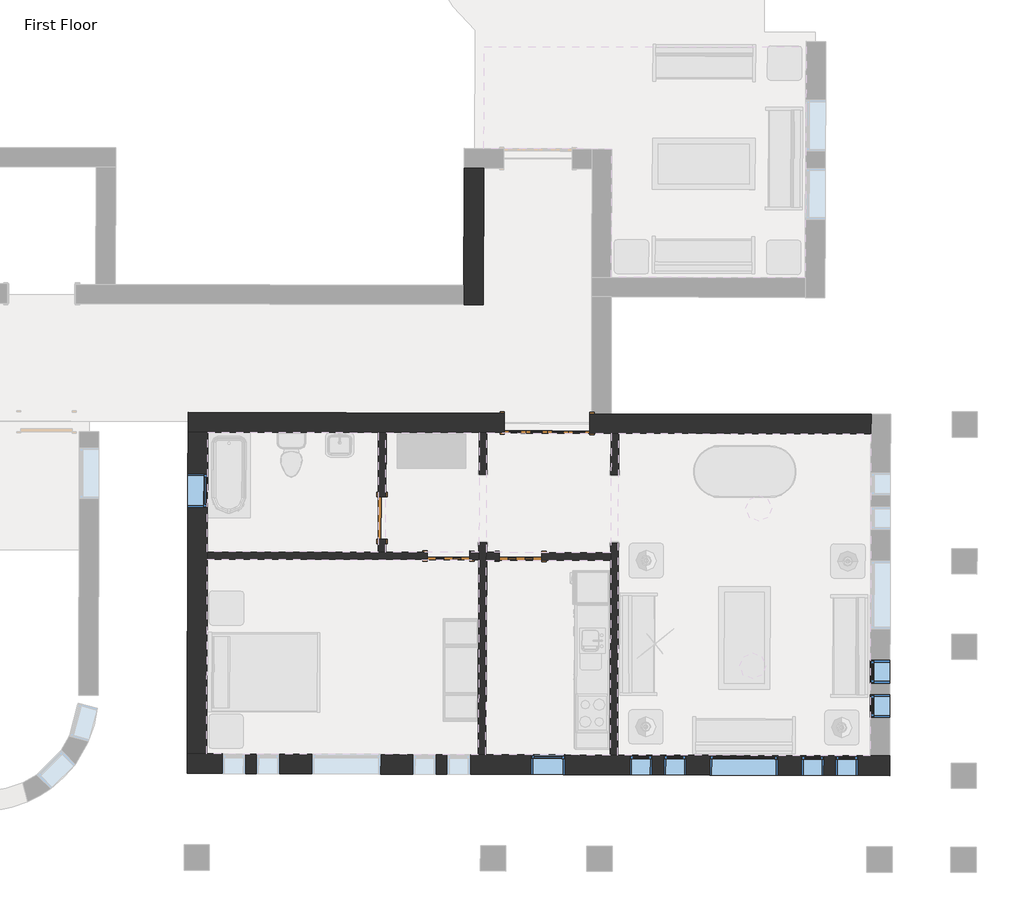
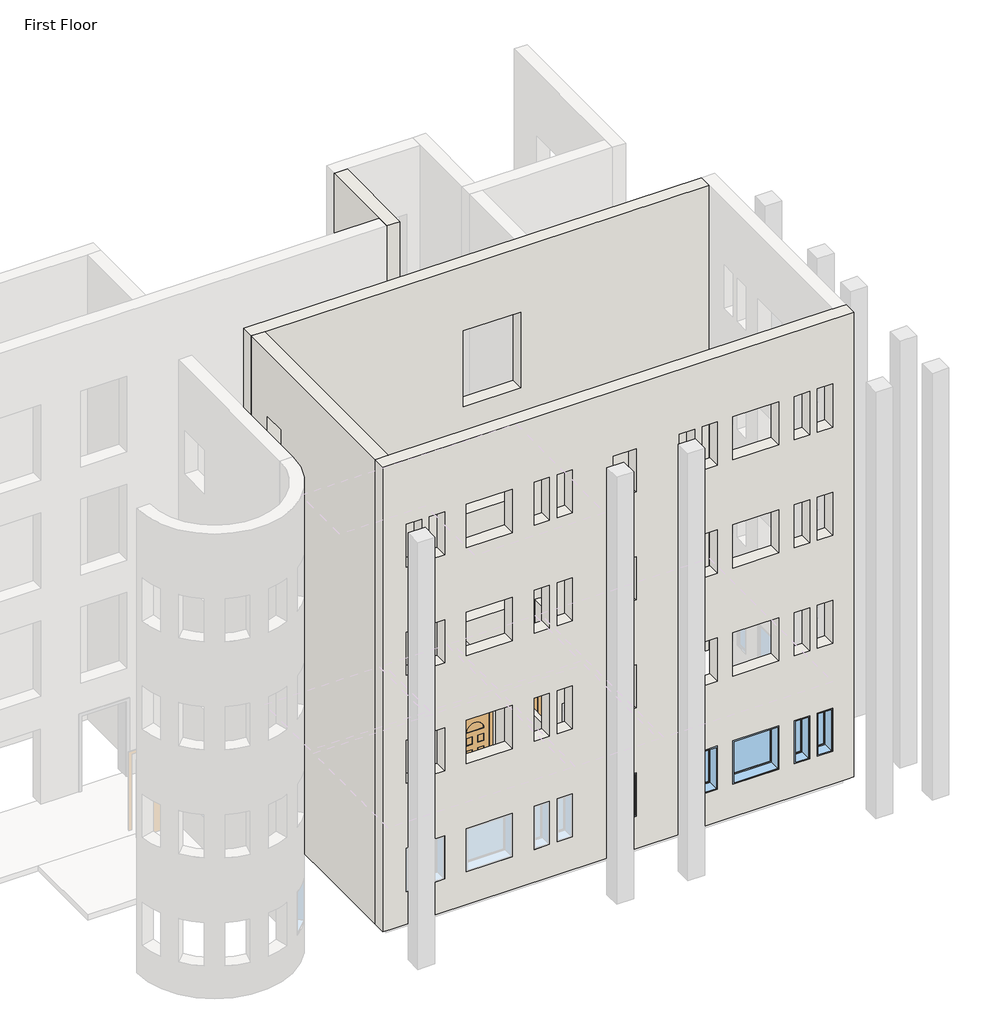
# One storey, part 4 of 22: 9 windows, 8 walls, 4 doors.
"""IFC4 building model written with IfcOpenShell, lengths in millimetres."""

from ifc_helpers import new_model, si_unit, frame, origin, place, context, project, spatial, polyline, outline, extrude, faceted_brep, transform, mapped, element, save
from components import m_bifold_4_panel_1525_x_2134mm_ac598c8b, m_single_decorative_2_0762_x_2134mm_0d0af7cb, m_single_decorative_2_0762_x_2134mm_2fe67c8e, m_single_flush_0762_x_2134mm_a28375c7, m_fixed_0406_x_1220mm_57fee329, m_fixed_0406_x_1220mm_85c28f40, m_fixed_0610_x_1220mm_1ea27827, m_fixed_1220_x_1220mm_8f5f8ad3

model = new_model("IFC4")

# Units and contexts
model_context = context("Model", 3, world=origin())
ifc_project = project(units=[si_unit("LENGTHUNIT", "METRE", prefix="MILLI")], contexts=[model_context])

# Site, building, storey
site = spatial("IfcSite", under=ifc_project)
building = spatial("IfcBuilding", under=site)
storey = spatial("IfcBuildingStorey", under=building, Name="First Floor", Elevation=0.0)

# Doors
placement = place(None, origin())
m_bifold_4_panel_1525_x_2134mm_shape = m_bifold_4_panel_1525_x_2134mm_ac598c8b(model_context)
element("IfcDoor", 1, ObjectType="M_Bifold-4 Panel : 1525 x 2134mm", at=placement, inside=storey, context=model_context, shape_type="MappedRepresentation", body=[
    mapped(m_bifold_4_panel_1525_x_2134mm_shape, transform((-8922.9440871, -35884.2994497, 0.0), x_axis=(0.9999958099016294, -0.0028948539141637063, 0.0), y_axis=(0.0028948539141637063, 0.9999958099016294, 0.0), z_axis=(0.0, 0.0, 1.0))),
])
m_single_decorative_2_0762_x_2134mm_shape = m_single_decorative_2_0762_x_2134mm_0d0af7cb(model_context)
element("IfcDoor", 2, ObjectType="M_Single-Decorative 2 : 0762 x 2134mm", at=placement, inside=storey, context=model_context, shape_type="MappedRepresentation", body=[
    mapped(m_single_decorative_2_0762_x_2134mm_shape, transform((-10682.8170859, -38255.9648119, 0.0), x_axis=(0.9999958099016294, -0.002894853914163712, 0.0), y_axis=(0.002894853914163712, 0.9999958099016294, 0.0), z_axis=(0.0, 0.0, 1.0))),
])
m_single_decorative_2_0762_x_2134mm_2_shape = m_single_decorative_2_0762_x_2134mm_2fe67c8e(model_context)
element("IfcDoor", 3, ObjectType="M_Single-Decorative 2 : 0762 x 2134mm", at=placement, inside=storey, context=model_context, shape_type="MappedRepresentation", body=[
    mapped(m_single_decorative_2_0762_x_2134mm_2_shape, transform((-9396.0724775, -38259.6897652, 0.0), x_axis=(-0.9999958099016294, 0.002894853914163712, 0.0), y_axis=(-0.002894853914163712, -0.9999958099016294, 0.0), z_axis=(0.0, 0.0, 1.0))),
])
m_single_flush_0762_x_2134mm_shape = m_single_flush_0762_x_2134mm_a28375c7(model_context)
element("IfcDoor", 4, ObjectType="M_Single-Flush : 0762 x 2134mm", at=placement, inside=storey, context=model_context, shape_type="MappedRepresentation", body=[
    mapped(m_single_flush_0762_x_2134mm_shape, transform((-11871.3501103, -37574.7713282, 0.0), x_axis=(-0.002894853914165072, -0.9999958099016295, 0.0), y_axis=(0.9999958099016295, -0.002894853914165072, 0.0), z_axis=(0.0, 0.0, 1.0))),
])

# Walls
element("IfcWall", 5, ObjectType="Exterior - Brick on Mtl. Stud", at=placement, inside=storey, context=model_context, shape_type="Brep", body=[
    faceted_brep([(-15350.3208606, -42136.7193311, 0.0), (-15165.3216358, -42137.2548791, 0.0), (-2993.3726377, -42172.4910409, 0.0), (-2808.3734128, -42173.0265889, 0.0), (-2808.3734128, -42173.0265889, 13107.0), (-15350.3208606, -42136.7193311, 13107.0), (-8602.199136, -42156.2542395, 915.0), (-9212.1965801, -42154.4883787, 915.0), (-9212.1965801, -42154.4883787, 2135.0), (-8602.199136, -42156.2542395, 2135.0), (-11898.3353248, -42146.7123668, 915.0), (-13118.3302129, -42143.180645, 915.0), (-13118.3302129, -42143.180645, 2135.0), (-11898.3353248, -42146.7123668, 2135.0), (-4800.4900656, -42167.259678, 915.0), (-6020.4849537, -42163.7279563, 915.0), (-6020.4849537, -42163.7279563, 2135.0), (-4800.4900656, -42167.259678, 2135.0), (-14312.3252099, -42139.7241895, 915.0), (-14718.3235087, -42138.5488788, 915.0), (-14718.3235087, -42138.5488788, 2135.0), (-14312.3252099, -42139.7241895, 2135.0), (-13702.3277659, -42141.4900504, 915.0), (-14108.3260647, -42140.3147397, 915.0), (-14108.3260647, -42140.3147397, 2135.0), (-13702.3277659, -42141.4900504, 2135.0), (-11314.3377718, -42148.4029615, 915.0), (-11314.3377718, -42148.4029615, 2135.0), (-10908.339473, -42149.5782722, 2135.0), (-10908.339473, -42149.5782722, 915.0), (-10704.3403278, -42150.1688224, 915.0), (-10704.3403278, -42150.1688224, 2135.0), (-10298.342029, -42151.3441331, 2135.0), (-10298.342029, -42151.3441331, 915.0), (-6435.3582153, -42162.5269538, 915.0), (-6841.3565142, -42161.3516431, 915.0), (-6841.3565142, -42161.3516431, 2135.0), (-6435.3582153, -42162.5269538, 2135.0), (-7045.3556594, -42160.7610929, 915.0), (-7451.3539582, -42159.5857822, 915.0), (-7451.3539582, -42159.5857822, 2135.0), (-7045.3556594, -42160.7610929, 2135.0), (-4385.616804, -42168.4606806, 915.0), (-4385.616804, -42168.4606806, 2135.0), (-3979.6185052, -42169.6359913, 2135.0), (-3979.6185052, -42169.6359913, 915.0), (-3775.6193599, -42170.2265415, 915.0), (-3775.6193599, -42170.2265415, 2135.0), (-3369.6210611, -42171.4018521, 2135.0), (-3369.6210611, -42171.4018521, 915.0), (-4385.616804, -42168.4606806, 10059.0), (-4385.616804, -42168.4606806, 11279.0), (-3979.6185052, -42169.6359913, 11279.0), (-3979.6185052, -42169.6359913, 10059.0), (-3775.6193599, -42170.2265415, 10059.0), (-3775.6193599, -42170.2265415, 11279.0), (-3369.6210611, -42171.4018521, 11279.0), (-3369.6210611, -42171.4018521, 10059.0), (-6435.3582153, -42162.5269538, 10059.0), (-6841.3565142, -42161.3516431, 10059.0), (-6841.3565142, -42161.3516431, 11279.0), (-6435.3582153, -42162.5269538, 11279.0), (-7045.3556594, -42160.7610929, 10059.0), (-7451.3539582, -42159.5857822, 10059.0), (-7451.3539582, -42159.5857822, 11279.0), (-7045.3556594, -42160.7610929, 11279.0), (-11314.3377718, -42148.4029615, 10059.0), (-11314.3377718, -42148.4029615, 11279.0), (-10908.339473, -42149.5782722, 11279.0), (-10908.339473, -42149.5782722, 10059.0), (-10704.3403278, -42150.1688224, 10059.0), (-10704.3403278, -42150.1688224, 11279.0), (-10298.342029, -42151.3441331, 11279.0), (-10298.342029, -42151.3441331, 10059.0), (-13702.3277659, -42141.4900504, 10059.0), (-14108.3260647, -42140.3147397, 10059.0), (-14108.3260647, -42140.3147397, 11279.0), (-13702.3277659, -42141.4900504, 11279.0), (-14312.3252099, -42139.7241895, 10059.0), (-14718.3235087, -42138.5488788, 10059.0), (-14718.3235087, -42138.5488788, 11279.0), (-14312.3252099, -42139.7241895, 11279.0), (-4800.4900656, -42167.259678, 10059.0), (-6020.4849537, -42163.7279563, 10059.0), (-6020.4849537, -42163.7279563, 11279.0), (-4800.4900656, -42167.259678, 11279.0), (-11898.3353248, -42146.7123668, 10059.0), (-13118.3302129, -42143.180645, 10059.0), (-13118.3302129, -42143.180645, 11279.0), (-11898.3353248, -42146.7123668, 11279.0), (-8602.199136, -42156.2542395, 10059.0), (-9212.1965801, -42154.4883787, 10059.0), (-9212.1965801, -42154.4883787, 11279.0), (-8602.199136, -42156.2542395, 11279.0), (-4385.616804, -42168.4606806, 3963.0), (-4385.616804, -42168.4606806, 5183.0), (-3979.6185052, -42169.6359913, 5183.0), (-3979.6185052, -42169.6359913, 3963.0), (-3775.6193599, -42170.2265415, 3963.0), (-3775.6193599, -42170.2265415, 5183.0), (-3369.6210611, -42171.4018521, 5183.0), (-3369.6210611, -42171.4018521, 3963.0), (-6435.3582153, -42162.5269538, 3963.0), (-6841.3565142, -42161.3516431, 3963.0), (-6841.3565142, -42161.3516431, 5183.0), (-6435.3582153, -42162.5269538, 5183.0), (-7045.3556594, -42160.7610929, 3963.0), (-7451.3539582, -42159.5857822, 3963.0), (-7451.3539582, -42159.5857822, 5183.0), (-7045.3556594, -42160.7610929, 5183.0), (-11314.3377718, -42148.4029615, 3963.0), (-11314.3377718, -42148.4029615, 5183.0), (-10908.339473, -42149.5782722, 5183.0), (-10908.339473, -42149.5782722, 3963.0), (-10704.3403278, -42150.1688224, 3963.0), (-10704.3403278, -42150.1688224, 5183.0), (-10298.342029, -42151.3441331, 5183.0), (-10298.342029, -42151.3441331, 3963.0), (-13702.3277659, -42141.4900504, 3963.0), (-14108.3260647, -42140.3147397, 3963.0), (-14108.3260647, -42140.3147397, 5183.0), (-13702.3277659, -42141.4900504, 5183.0), (-14312.3252099, -42139.7241895, 3963.0), (-14718.3235087, -42138.5488788, 3963.0), (-14718.3235087, -42138.5488788, 5183.0), (-14312.3252099, -42139.7241895, 5183.0), (-4800.4900656, -42167.259678, 3963.0), (-6020.4849537, -42163.7279563, 3963.0), (-6020.4849537, -42163.7279563, 5183.0), (-4800.4900656, -42167.259678, 5183.0), (-11898.3353248, -42146.7123668, 3963.0), (-13118.3302129, -42143.180645, 3963.0), (-13118.3302129, -42143.180645, 5183.0), (-11898.3353248, -42146.7123668, 5183.0), (-8602.199136, -42156.2542395, 3963.0), (-9212.1965801, -42154.4883787, 3963.0), (-9212.1965801, -42154.4883787, 5183.0), (-8602.199136, -42156.2542395, 5183.0), (-4385.616804, -42168.4606806, 7011.0), (-4385.616804, -42168.4606806, 8231.0), (-3979.6185052, -42169.6359913, 8231.0), (-3979.6185052, -42169.6359913, 7011.0), (-3775.6193599, -42170.2265415, 7011.0), (-3775.6193599, -42170.2265415, 8231.0), (-3369.6210611, -42171.4018521, 8231.0), (-3369.6210611, -42171.4018521, 7011.0), (-6435.3582153, -42162.5269538, 7011.0), (-6841.3565142, -42161.3516431, 7011.0), (-6841.3565142, -42161.3516431, 8231.0), (-6435.3582153, -42162.5269538, 8231.0), (-7045.3556594, -42160.7610929, 7011.0), (-7451.3539582, -42159.5857822, 7011.0), (-7451.3539582, -42159.5857822, 8231.0), (-7045.3556594, -42160.7610929, 8231.0), (-11314.3377718, -42148.4029615, 7011.0), (-11314.3377718, -42148.4029615, 8231.0), (-10908.339473, -42149.5782722, 8231.0), (-10908.339473, -42149.5782722, 7011.0), (-10704.3403278, -42150.1688224, 7011.0), (-10704.3403278, -42150.1688224, 8231.0), (-10298.342029, -42151.3441331, 8231.0), (-10298.342029, -42151.3441331, 7011.0), (-13702.3277659, -42141.4900504, 7011.0), (-14108.3260647, -42140.3147397, 7011.0), (-14108.3260647, -42140.3147397, 8231.0), (-13702.3277659, -42141.4900504, 8231.0), (-14312.3252099, -42139.7241895, 7011.0), (-14718.3235087, -42138.5488788, 7011.0), (-14718.3235087, -42138.5488788, 8231.0), (-14312.3252099, -42139.7241895, 8231.0), (-4800.4900656, -42167.259678, 7011.0), (-6020.4849537, -42163.7279563, 7011.0), (-6020.4849537, -42163.7279563, 8231.0), (-4800.4900656, -42167.259678, 8231.0), (-11898.3353248, -42146.7123668, 7011.0), (-13118.3302129, -42143.180645, 7011.0), (-13118.3302129, -42143.180645, 8231.0), (-11898.3353248, -42146.7123668, 8231.0), (-8602.199136, -42156.2542395, 7011.0), (-9212.1965801, -42154.4883787, 7011.0), (-9212.1965801, -42154.4883787, 8231.0), (-8602.199136, -42156.2542395, 8231.0), (-15349.3076617, -41786.7207976, 0.0), (-15349.3076617, -41786.7207976, 13107.0), (-14999.3091283, -41787.7339965, 13107.0), (-3157.3587474, -41822.0148566, 13107.0), (-2807.360214, -41823.0280554, 13107.0), (-2807.360214, -41823.0280554, 0.0), (-2992.3594388, -41822.4925075, 0.0), (-3157.3587474, -41822.0148566, 0.0), (-7661.5898742, -41808.9757108, 0.0), (-7797.0893064, -41808.5834581, 0.0), (-10015.3300117, -41802.1619484, 0.0), (-10150.829444, -41801.7696957, 0.0), (-14999.3091283, -41787.7339965, 0.0), (-15164.3084369, -41787.2563456, 0.0), (-8601.1859371, -41806.2557061, 915.0), (-8601.1859371, -41806.2557061, 2135.0), (-9211.1833812, -41804.4898452, 2135.0), (-9211.1833812, -41804.4898452, 915.0), (-11897.322126, -41796.7138334, 915.0), (-11897.322126, -41796.7138334, 2135.0), (-13117.317014, -41793.1821116, 2135.0), (-13117.317014, -41793.1821116, 915.0), (-4799.4768668, -41817.2611446, 915.0), (-4799.4768668, -41817.2611446, 2135.0), (-6019.4717548, -41813.7294228, 2135.0), (-6019.4717548, -41813.7294228, 915.0), (-14311.3120111, -41789.725656, 915.0), (-14311.3120111, -41789.725656, 2135.0), (-14717.3103099, -41788.5503453, 2135.0), (-14717.3103099, -41788.5503453, 915.0), (-13701.314567, -41791.4915169, 915.0), (-13701.314567, -41791.4915169, 2135.0), (-14107.3128658, -41790.3162062, 2135.0), (-14107.3128658, -41790.3162062, 915.0), (-11313.324573, -41798.404428, 915.0), (-10907.3262742, -41799.5797387, 915.0), (-10907.3262742, -41799.5797387, 2135.0), (-11313.324573, -41798.404428, 2135.0), (-10703.3271289, -41800.1702889, 915.0), (-10297.3288301, -41801.3455996, 915.0), (-10297.3288301, -41801.3455996, 2135.0), (-10703.3271289, -41800.1702889, 2135.0), (-6434.3450165, -41812.5284203, 915.0), (-6434.3450165, -41812.5284203, 2135.0), (-6840.3433153, -41811.3531096, 2135.0), (-6840.3433153, -41811.3531096, 915.0), (-7044.3424605, -41810.7625594, 915.0), (-7044.3424605, -41810.7625594, 2135.0), (-7450.3407593, -41809.5872487, 2135.0), (-7450.3407593, -41809.5872487, 915.0), (-4384.6036051, -41818.4621471, 915.0), (-3978.6053063, -41819.6374578, 915.0), (-3978.6053063, -41819.6374578, 2135.0), (-4384.6036051, -41818.4621471, 2135.0), (-3774.6061611, -41820.228008, 915.0), (-3368.6078623, -41821.4033187, 915.0), (-3368.6078623, -41821.4033187, 2135.0), (-3774.6061611, -41820.228008, 2135.0), (-4384.6036051, -41818.4621471, 10059.0), (-3978.6053063, -41819.6374578, 10059.0), (-3978.6053063, -41819.6374578, 11279.0), (-4384.6036051, -41818.4621471, 11279.0), (-3774.6061611, -41820.228008, 10059.0), (-3368.6078623, -41821.4033187, 10059.0), (-3368.6078623, -41821.4033187, 11279.0), (-3774.6061611, -41820.228008, 11279.0), (-6434.3450165, -41812.5284203, 10059.0), (-6434.3450165, -41812.5284203, 11279.0), (-6840.3433153, -41811.3531096, 11279.0), (-6840.3433153, -41811.3531096, 10059.0), (-7044.3424605, -41810.7625594, 10059.0), (-7044.3424605, -41810.7625594, 11279.0), (-7450.3407593, -41809.5872487, 11279.0), (-7450.3407593, -41809.5872487, 10059.0), (-11313.324573, -41798.404428, 10059.0), (-10907.3262742, -41799.5797387, 10059.0), (-10907.3262742, -41799.5797387, 11279.0), (-11313.324573, -41798.404428, 11279.0), (-10703.3271289, -41800.1702889, 10059.0), (-10297.3288301, -41801.3455996, 10059.0), (-10297.3288301, -41801.3455996, 11279.0), (-10703.3271289, -41800.1702889, 11279.0), (-13701.314567, -41791.4915169, 10059.0), (-13701.314567, -41791.4915169, 11279.0), (-14107.3128658, -41790.3162062, 11279.0), (-14107.3128658, -41790.3162062, 10059.0), (-14311.3120111, -41789.725656, 10059.0), (-14311.3120111, -41789.725656, 11279.0), (-14717.3103099, -41788.5503453, 11279.0), (-14717.3103099, -41788.5503453, 10059.0), (-4799.4768668, -41817.2611446, 10059.0), (-4799.4768668, -41817.2611446, 11279.0), (-6019.4717548, -41813.7294228, 11279.0), (-6019.4717548, -41813.7294228, 10059.0), (-11897.322126, -41796.7138334, 10059.0), (-11897.322126, -41796.7138334, 11279.0), (-13117.317014, -41793.1821116, 11279.0), (-13117.317014, -41793.1821116, 10059.0), (-8601.1859371, -41806.2557061, 10059.0), (-8601.1859371, -41806.2557061, 11279.0), (-9211.1833812, -41804.4898452, 11279.0), (-9211.1833812, -41804.4898452, 10059.0), (-4384.6036051, -41818.4621471, 3963.0), (-3978.6053063, -41819.6374578, 3963.0), (-3978.6053063, -41819.6374578, 5183.0), (-4384.6036051, -41818.4621471, 5183.0), (-3774.6061611, -41820.228008, 3963.0), (-3368.6078623, -41821.4033187, 3963.0), (-3368.6078623, -41821.4033187, 5183.0), (-3774.6061611, -41820.228008, 5183.0), (-6434.3450165, -41812.5284203, 3963.0), (-6434.3450165, -41812.5284203, 5183.0), (-6840.3433153, -41811.3531096, 5183.0), (-6840.3433153, -41811.3531096, 3963.0), (-7044.3424605, -41810.7625594, 3963.0), (-7044.3424605, -41810.7625594, 5183.0), (-7450.3407593, -41809.5872487, 5183.0), (-7450.3407593, -41809.5872487, 3963.0), (-11313.324573, -41798.404428, 3963.0), (-10907.3262742, -41799.5797387, 3963.0), (-10907.3262742, -41799.5797387, 5183.0), (-11313.324573, -41798.404428, 5183.0), (-10703.3271289, -41800.1702889, 3963.0), (-10297.3288301, -41801.3455996, 3963.0), (-10297.3288301, -41801.3455996, 5183.0), (-10703.3271289, -41800.1702889, 5183.0), (-13701.314567, -41791.4915169, 3963.0), (-13701.314567, -41791.4915169, 5183.0), (-14107.3128658, -41790.3162062, 5183.0), (-14107.3128658, -41790.3162062, 3963.0), (-14311.3120111, -41789.725656, 3963.0), (-14311.3120111, -41789.725656, 5183.0), (-14717.3103099, -41788.5503453, 5183.0), (-14717.3103099, -41788.5503453, 3963.0), (-4799.4768668, -41817.2611446, 3963.0), (-4799.4768668, -41817.2611446, 5183.0), (-6019.4717548, -41813.7294228, 5183.0), (-6019.4717548, -41813.7294228, 3963.0), (-11897.322126, -41796.7138334, 3963.0), (-11897.322126, -41796.7138334, 5183.0), (-13117.317014, -41793.1821116, 5183.0), (-13117.317014, -41793.1821116, 3963.0), (-8601.1859371, -41806.2557061, 3963.0), (-8601.1859371, -41806.2557061, 5183.0), (-9211.1833812, -41804.4898452, 5183.0), (-9211.1833812, -41804.4898452, 3963.0), (-4384.6036051, -41818.4621471, 7011.0), (-3978.6053063, -41819.6374578, 7011.0), (-3978.6053063, -41819.6374578, 8231.0), (-4384.6036051, -41818.4621471, 8231.0), (-3774.6061611, -41820.228008, 7011.0), (-3368.6078623, -41821.4033187, 7011.0), (-3368.6078623, -41821.4033187, 8231.0), (-3774.6061611, -41820.228008, 8231.0), (-6434.3450165, -41812.5284203, 7011.0), (-6434.3450165, -41812.5284203, 8231.0), (-6840.3433153, -41811.3531096, 8231.0), (-6840.3433153, -41811.3531096, 7011.0), (-7044.3424605, -41810.7625594, 7011.0), (-7044.3424605, -41810.7625594, 8231.0), (-7450.3407593, -41809.5872487, 8231.0), (-7450.3407593, -41809.5872487, 7011.0), (-11313.324573, -41798.404428, 7011.0), (-10907.3262742, -41799.5797387, 7011.0), (-10907.3262742, -41799.5797387, 8231.0), (-11313.324573, -41798.404428, 8231.0), (-10703.3271289, -41800.1702889, 7011.0), (-10297.3288301, -41801.3455996, 7011.0), (-10297.3288301, -41801.3455996, 8231.0), (-10703.3271289, -41800.1702889, 8231.0), (-13701.314567, -41791.4915169, 7011.0), (-13701.314567, -41791.4915169, 8231.0), (-14107.3128658, -41790.3162062, 8231.0), (-14107.3128658, -41790.3162062, 7011.0), (-14311.3120111, -41789.725656, 7011.0), (-14311.3120111, -41789.725656, 8231.0), (-14717.3103099, -41788.5503453, 8231.0), (-14717.3103099, -41788.5503453, 7011.0), (-4799.4768668, -41817.2611446, 7011.0), (-4799.4768668, -41817.2611446, 8231.0), (-6019.4717548, -41813.7294228, 8231.0), (-6019.4717548, -41813.7294228, 7011.0), (-11897.322126, -41796.7138334, 7011.0), (-11897.322126, -41796.7138334, 8231.0), (-13117.317014, -41793.1821116, 8231.0), (-13117.317014, -41793.1821116, 7011.0), (-8601.1859371, -41806.2557061, 7011.0), (-8601.1859371, -41806.2557061, 8231.0), (-9211.1833812, -41804.4898452, 8231.0), (-9211.1833812, -41804.4898452, 7011.0), (-15349.7853126, -41951.7201063, 0.0), (-2807.8378648, -41988.0273641, 0.0), (-2992.8370897, -41987.4918161, 0.0), (-15164.7860878, -41952.2556543, 0.0)], [[[0, 1, 2, 3, 4, 5], [6, 7, 8, 9], [10, 11, 12, 13], [14, 15, 16, 17], [18, 19, 20, 21], [22, 23, 24, 25], [26, 27, 28, 29], [30, 31, 32, 33], [34, 35, 36, 37], [38, 39, 40, 41], [42, 43, 44, 45], [46, 47, 48, 49], [50, 51, 52, 53], [54, 55, 56, 57], [58, 59, 60, 61], [62, 63, 64, 65], [66, 67, 68, 69], [70, 71, 72, 73], [74, 75, 76, 77], [78, 79, 80, 81], [82, 83, 84, 85], [86, 87, 88, 89], [90, 91, 92, 93], [94, 95, 96, 97], [98, 99, 100, 101], [102, 103, 104, 105], [106, 107, 108, 109], [110, 111, 112, 113], [114, 115, 116, 117], [118, 119, 120, 121], [122, 123, 124, 125], [126, 127, 128, 129], [130, 131, 132, 133], [134, 135, 136, 137], [138, 139, 140, 141], [142, 143, 144, 145], [146, 147, 148, 149], [150, 151, 152, 153], [154, 155, 156, 157], [158, 159, 160, 161], [162, 163, 164, 165], [166, 167, 168, 169], [170, 171, 172, 173], [174, 175, 176, 177], [178, 179, 180, 181]], [[182, 183, 184, 185, 186, 187, 188, 189, 190, 191, 192, 193, 194, 195], [196, 197, 198, 199], [200, 201, 202, 203], [204, 205, 206, 207], [208, 209, 210, 211], [212, 213, 214, 215], [216, 217, 218, 219], [220, 221, 222, 223], [224, 225, 226, 227], [228, 229, 230, 231], [232, 233, 234, 235], [236, 237, 238, 239], [240, 241, 242, 243], [244, 245, 246, 247], [248, 249, 250, 251], [252, 253, 254, 255], [256, 257, 258, 259], [260, 261, 262, 263], [264, 265, 266, 267], [268, 269, 270, 271], [272, 273, 274, 275], [276, 277, 278, 279], [280, 281, 282, 283], [284, 285, 286, 287], [288, 289, 290, 291], [292, 293, 294, 295], [296, 297, 298, 299], [300, 301, 302, 303], [304, 305, 306, 307], [308, 309, 310, 311], [312, 313, 314, 315], [316, 317, 318, 319], [320, 321, 322, 323], [324, 325, 326, 327], [328, 329, 330, 331], [332, 333, 334, 335], [336, 337, 338, 339], [340, 341, 342, 343], [344, 345, 346, 347], [348, 349, 350, 351], [352, 353, 354, 355], [356, 357, 358, 359], [360, 361, 362, 363], [364, 365, 366, 367], [368, 369, 370, 371]], [[5, 4, 186, 185, 184, 183]], [[197, 196, 6, 9]], [[198, 197, 9, 8]], [[199, 198, 8, 7]], [[196, 199, 7, 6]], [[201, 200, 10, 13]], [[202, 201, 13, 12]], [[203, 202, 12, 11]], [[200, 203, 11, 10]], [[205, 204, 14, 17]], [[206, 205, 17, 16]], [[207, 206, 16, 15]], [[204, 207, 15, 14]], [[209, 208, 18, 21]], [[210, 209, 21, 20]], [[211, 210, 20, 19]], [[208, 211, 19, 18]], [[213, 212, 22, 25]], [[214, 213, 25, 24]], [[215, 214, 24, 23]], [[212, 215, 23, 22]], [[27, 26, 216, 219]], [[28, 27, 219, 218]], [[29, 28, 218, 217]], [[26, 29, 217, 216]], [[31, 30, 220, 223]], [[32, 31, 223, 222]], [[33, 32, 222, 221]], [[30, 33, 221, 220]], [[225, 224, 34, 37]], [[226, 225, 37, 36]], [[227, 226, 36, 35]], [[224, 227, 35, 34]], [[229, 228, 38, 41]], [[230, 229, 41, 40]], [[231, 230, 40, 39]], [[228, 231, 39, 38]], [[43, 42, 232, 235]], [[44, 43, 235, 234]], [[45, 44, 234, 233]], [[42, 45, 233, 232]], [[47, 46, 236, 239]], [[48, 47, 239, 238]], [[49, 48, 238, 237]], [[46, 49, 237, 236]], [[51, 50, 240, 243]], [[52, 51, 243, 242]], [[53, 52, 242, 241]], [[50, 53, 241, 240]], [[55, 54, 244, 247]], [[56, 55, 247, 246]], [[57, 56, 246, 245]], [[54, 57, 245, 244]], [[249, 248, 58, 61]], [[250, 249, 61, 60]], [[251, 250, 60, 59]], [[248, 251, 59, 58]], [[253, 252, 62, 65]], [[254, 253, 65, 64]], [[255, 254, 64, 63]], [[252, 255, 63, 62]], [[67, 66, 256, 259]], [[68, 67, 259, 258]], [[69, 68, 258, 257]], [[66, 69, 257, 256]], [[71, 70, 260, 263]], [[72, 71, 263, 262]], [[73, 72, 262, 261]], [[70, 73, 261, 260]], [[265, 264, 74, 77]], [[266, 265, 77, 76]], [[267, 266, 76, 75]], [[264, 267, 75, 74]], [[269, 268, 78, 81]], [[270, 269, 81, 80]], [[271, 270, 80, 79]], [[268, 271, 79, 78]], [[273, 272, 82, 85]], [[274, 273, 85, 84]], [[275, 274, 84, 83]], [[272, 275, 83, 82]], [[277, 276, 86, 89]], [[278, 277, 89, 88]], [[279, 278, 88, 87]], [[276, 279, 87, 86]], [[281, 280, 90, 93]], [[282, 281, 93, 92]], [[283, 282, 92, 91]], [[280, 283, 91, 90]], [[95, 94, 284, 287]], [[96, 95, 287, 286]], [[97, 96, 286, 285]], [[94, 97, 285, 284]], [[99, 98, 288, 291]], [[100, 99, 291, 290]], [[101, 100, 290, 289]], [[98, 101, 289, 288]], [[293, 292, 102, 105]], [[294, 293, 105, 104]], [[295, 294, 104, 103]], [[292, 295, 103, 102]], [[297, 296, 106, 109]], [[298, 297, 109, 108]], [[299, 298, 108, 107]], [[296, 299, 107, 106]], [[111, 110, 300, 303]], [[112, 111, 303, 302]], [[113, 112, 302, 301]], [[110, 113, 301, 300]], [[115, 114, 304, 307]], [[116, 115, 307, 306]], [[117, 116, 306, 305]], [[114, 117, 305, 304]], [[309, 308, 118, 121]], [[310, 309, 121, 120]], [[311, 310, 120, 119]], [[308, 311, 119, 118]], [[313, 312, 122, 125]], [[314, 313, 125, 124]], [[315, 314, 124, 123]], [[312, 315, 123, 122]], [[317, 316, 126, 129]], [[318, 317, 129, 128]], [[319, 318, 128, 127]], [[316, 319, 127, 126]], [[321, 320, 130, 133]], [[322, 321, 133, 132]], [[323, 322, 132, 131]], [[320, 323, 131, 130]], [[325, 324, 134, 137]], [[326, 325, 137, 136]], [[327, 326, 136, 135]], [[324, 327, 135, 134]], [[139, 138, 328, 331]], [[140, 139, 331, 330]], [[141, 140, 330, 329]], [[138, 141, 329, 328]], [[143, 142, 332, 335]], [[144, 143, 335, 334]], [[145, 144, 334, 333]], [[142, 145, 333, 332]], [[337, 336, 146, 149]], [[338, 337, 149, 148]], [[339, 338, 148, 147]], [[336, 339, 147, 146]], [[341, 340, 150, 153]], [[342, 341, 153, 152]], [[343, 342, 152, 151]], [[340, 343, 151, 150]], [[155, 154, 344, 347]], [[156, 155, 347, 346]], [[157, 156, 346, 345]], [[154, 157, 345, 344]], [[159, 158, 348, 351]], [[160, 159, 351, 350]], [[161, 160, 350, 349]], [[158, 161, 349, 348]], [[353, 352, 162, 165]], [[354, 353, 165, 164]], [[355, 354, 164, 163]], [[352, 355, 163, 162]], [[357, 356, 166, 169]], [[358, 357, 169, 168]], [[359, 358, 168, 167]], [[356, 359, 167, 166]], [[361, 360, 170, 173]], [[362, 361, 173, 172]], [[363, 362, 172, 171]], [[360, 363, 171, 170]], [[365, 364, 174, 177]], [[366, 365, 177, 176]], [[367, 366, 176, 175]], [[364, 367, 175, 174]], [[369, 368, 178, 181]], [[370, 369, 181, 180]], [[371, 370, 180, 179]], [[368, 371, 179, 178]], [[0, 5, 183, 182, 372]], [[4, 3, 373, 187, 186]], [[374, 188, 187, 373]], [[3, 2, 374, 373]], [[2, 1, 375, 374]], [[372, 182, 195, 375]], [[1, 0, 372, 375]], [[375, 195, 194, 193, 192, 191, 190, 189, 188, 374]]]),
])
element("IfcWall", 6, ObjectType="Exterior - Brick on Mtl. Stud", at=placement, inside=storey, context=model_context, shape_type="Brep", body=[
    faceted_brep([(-15331.6606323, -35690.7463405, 13107.0), (-3139.711718, -35726.0403994, 13107.0), (-3139.711718, -35726.0403994, 0.0), (-8159.9406826, -35711.507509, 0.0), (-8159.9406826, -35711.507509, 2134.0), (-9684.9342927, -35707.0928568, 2134.0), (-9684.9342927, -35707.0928568, 0.0), (-15331.6606323, -35690.7463405, 0.0), (-8159.9406826, -35711.507509, 9144.0), (-8159.9406826, -35711.507509, 11278.0), (-9684.9342927, -35707.0928568, 11278.0), (-9684.9342927, -35707.0928568, 9144.0), (-8159.9406826, -35711.507509, 3048.0), (-8159.9406826, -35711.507509, 5182.0), (-9684.9342927, -35707.0928568, 5182.0), (-9684.9342927, -35707.0928568, 3048.0), (-8159.9406826, -35711.507509, 6096.0), (-8159.9406826, -35711.507509, 8230.0), (-9684.9342927, -35707.0928568, 8230.0), (-9684.9342927, -35707.0928568, 6096.0), (-3140.7249168, -36076.0389329, 13107.0), (-14982.6752977, -36041.7580728, 13107.0), (-15332.6738311, -36040.7448739, 13107.0), (-15332.6738311, -36040.7448739, 0.0), (-14982.6752977, -36041.7580728, 0.0), (-11934.6880691, -36050.5815875, 0.0), (-11799.1886369, -36050.9738403, 0.0), (-10134.1956134, -36055.793772, 0.0), (-9998.6961811, -36056.1860247, 0.0), (-9685.9474916, -36057.0913903, 0.0), (-9685.9474916, -36057.0913903, 2134.0), (-8160.9538815, -36061.5060425, 2134.0), (-8160.9538815, -36061.5060425, 0.0), (-7780.4554758, -36062.6075344, 0.0), (-7644.9560436, -36062.9997871, 0.0), (-3140.7249168, -36076.0389329, 0.0), (-8160.9538815, -36061.5060425, 9144.0), (-9685.9474916, -36057.0913903, 9144.0), (-9685.9474916, -36057.0913903, 11278.0), (-8160.9538815, -36061.5060425, 11278.0), (-8160.9538815, -36061.5060425, 3048.0), (-9685.9474916, -36057.0913903, 3048.0), (-9685.9474916, -36057.0913903, 5182.0), (-8160.9538815, -36061.5060425, 5182.0), (-8160.9538815, -36061.5060425, 6096.0), (-9685.9474916, -36057.0913903, 6096.0), (-9685.9474916, -36057.0913903, 8230.0), (-8160.9538815, -36061.5060425, 8230.0)], [[[0, 1, 2, 3, 4, 5, 6, 7], [8, 9, 10, 11], [12, 13, 14, 15], [16, 17, 18, 19]], [[20, 21, 22, 23, 24, 25, 26, 27, 28, 29, 30, 31, 32, 33, 34, 35], [36, 37, 38, 39], [40, 41, 42, 43], [44, 45, 46, 47]], [[23, 7, 6, 29, 28, 27, 26, 25, 24]], [[2, 35, 34, 33, 32, 3]], [[1, 0, 22, 21, 20]], [[31, 4, 3, 32]], [[4, 31, 30, 5]], [[5, 30, 29, 6]], [[9, 8, 36, 39]], [[10, 9, 39, 38]], [[11, 10, 38, 37]], [[8, 11, 37, 36]], [[13, 12, 40, 43]], [[14, 13, 43, 42]], [[15, 14, 42, 41]], [[12, 15, 41, 40]], [[17, 16, 44, 47]], [[18, 17, 47, 46]], [[19, 18, 46, 45]], [[16, 19, 45, 44]], [[0, 7, 23, 22]], [[2, 1, 20, 35]]]),
])
element("IfcWall", 7, ObjectType="Exterior - Brick on Mtl. Stud", at=placement, inside=storey, context=model_context, shape_type="Brep", body=[
    faceted_brep([(-15332.6738311, -36040.7448739, 0.0), (-15349.3076617, -41786.7207976, 0.0), (-15349.3076617, -41786.7207976, 13107.0), (-15332.6738311, -36040.7448739, 13107.0), (-15336.5818839, -37390.7392173, 915.0), (-15334.816023, -36780.7417733, 915.0), (-15334.816023, -36780.7417733, 2135.0), (-15336.5818839, -37390.7392173, 2135.0), (-15336.5818839, -37390.7392173, 10059.0), (-15334.816023, -36780.7417733, 10059.0), (-15334.816023, -36780.7417733, 11279.0), (-15336.5818839, -37390.7392173, 11279.0), (-15336.5818839, -37390.7392173, 3963.0), (-15334.816023, -36780.7417733, 3963.0), (-15334.816023, -36780.7417733, 5183.0), (-15336.5818839, -37390.7392173, 5183.0), (-15336.5818839, -37390.7392173, 7011.0), (-15334.816023, -36780.7417733, 7011.0), (-15334.816023, -36780.7417733, 8231.0), (-15336.5818839, -37390.7392173, 8231.0), (-14982.6752977, -36041.7580728, 0.0), (-14982.6752977, -36041.7580728, 13107.0), (-14999.3091283, -41787.7339965, 13107.0), (-14999.3091283, -41787.7339965, 0.0), (-14989.2451686, -38311.2485634, 0.0), (-14988.8529159, -38175.7491311, 0.0), (-14986.5833505, -37391.7524162, 915.0), (-14986.5833505, -37391.7524162, 2135.0), (-14984.8174896, -36781.7549721, 2135.0), (-14984.8174896, -36781.7549721, 915.0), (-14986.5833505, -37391.7524162, 10059.0), (-14986.5833505, -37391.7524162, 11279.0), (-14984.8174896, -36781.7549721, 11279.0), (-14984.8174896, -36781.7549721, 10059.0), (-14986.5833505, -37391.7524162, 3963.0), (-14986.5833505, -37391.7524162, 5183.0), (-14984.8174896, -36781.7549721, 5183.0), (-14984.8174896, -36781.7549721, 3963.0), (-14986.5833505, -37391.7524162, 7011.0), (-14986.5833505, -37391.7524162, 8231.0), (-14984.8174896, -36781.7549721, 8231.0), (-14984.8174896, -36781.7549721, 7011.0), (-15147.6746063, -36041.2804219, 0.0), (-15164.3084369, -41787.2563456, 0.0)], [[[0, 1, 2, 3], [4, 5, 6, 7], [8, 9, 10, 11], [12, 13, 14, 15], [16, 17, 18, 19]], [[20, 21, 22, 23, 24, 25], [26, 27, 28, 29], [30, 31, 32, 33], [34, 35, 36, 37], [38, 39, 40, 41]], [[3, 2, 22, 21]], [[27, 26, 4, 7]], [[28, 27, 7, 6]], [[29, 28, 6, 5]], [[26, 29, 5, 4]], [[31, 30, 8, 11]], [[32, 31, 11, 10]], [[33, 32, 10, 9]], [[30, 33, 9, 8]], [[35, 34, 12, 15]], [[36, 35, 15, 14]], [[37, 36, 14, 13]], [[34, 37, 13, 12]], [[39, 38, 16, 19]], [[40, 39, 19, 18]], [[41, 40, 18, 17]], [[38, 41, 17, 16]], [[0, 3, 21, 20, 42]], [[2, 1, 43, 23, 22]], [[1, 0, 42, 43]], [[42, 20, 25, 24, 23, 43]]]),
])
element("IfcWall", 8, ObjectType="Exterior - Brick on Mtl. Stud", at=placement, inside=storey, context=model_context, shape_type="Brep", body=[
    faceted_brep([(-10402.7584043, -31327.2876841, 0.0), (-10408.8135958, -33418.9877446, 0.0), (-10409.8267947, -33768.9862781, 0.0), (-10409.8267947, -33768.9862781, 13107.0), (-10408.8135958, -33418.9877446, 13107.0), (-10402.7584043, -31327.2876841, 13107.0), (-10052.7613374, -31328.8074814, 0.0), (-10052.7613374, -31328.8074814, 13107.0), (-10059.8282612, -33769.9994769, 13107.0), (-10059.8282612, -33769.9994769, 0.0)], [[[0, 1, 2, 3, 4, 5]], [[6, 7, 8, 9]], [[2, 1, 0, 6, 9]], [[5, 4, 3, 8, 7]], [[3, 2, 9, 8]], [[0, 5, 7, 6]]]),
])
element("IfcWall", 9, ObjectType="Interior - 135mm Partition (2-hr)", at=placement, inside=storey, context=model_context, shape_type="Brep", body=[
    faceted_brep([(-7661.5898742, -41808.9757108, 0.0), (-7650.6270624, -38021.9915787, 0.0), (-7650.6270624, -38021.9915787, 2134.0), (-7647.0953406, -36801.9966906, 2134.0), (-7647.0953406, -36801.9966906, 0.0), (-7644.9560436, -36062.9997871, 0.0), (-7644.9560436, -36062.9997871, 3048.0), (-7661.5898742, -41808.9757108, 3048.0), (-7786.1264946, -38021.599326, 2134.0), (-7786.1264946, -38021.599326, 0.0), (-7786.6330941, -38196.5985928, 0.0), (-7787.0253468, -38332.098025, 0.0), (-7797.0893064, -41808.5834581, 0.0), (-7797.0893064, -41808.5834581, 3048.0), (-7787.0253468, -38332.098025, 3048.0), (-7786.6330941, -38196.5985928, 3048.0), (-7780.4554758, -36062.6075344, 3048.0), (-7780.4554758, -36062.6075344, 0.0), (-7782.5947729, -36801.6044379, 0.0), (-7782.5947729, -36801.6044379, 2134.0)], [[[0, 1, 2, 3, 4, 5, 6, 7]], [[8, 9, 10, 11, 12, 13, 14, 15, 16, 17, 18, 19]], [[18, 17, 5, 4]], [[12, 11, 10, 9, 1, 0]], [[7, 6, 16, 15, 14, 13]], [[4, 3, 19, 18]], [[2, 1, 9, 8]], [[3, 2, 8, 19]], [[6, 5, 17, 16]], [[0, 7, 13, 12]]]),
])
element("IfcWall", 10, ObjectType="Interior - 135mm Partition (2-hr)", at=placement, inside=storey, context=model_context, shape_type="Brep", body=[
    faceted_brep([(-10000.8354782, -36795.1829282, 2134.0), (-10000.8354782, -36795.1829282, 0.0), (-9998.6961811, -36056.1860247, 0.0), (-9998.6961811, -36056.1860247, 3048.0), (-10004.8737994, -38190.1770831, 3048.0), (-10005.2660521, -38325.6765153, 3048.0), (-10015.3300117, -41802.1619484, 3048.0), (-10015.3300117, -41802.1619484, 0.0), (-10005.2660521, -38325.6765153, 0.0), (-10004.8737994, -38190.1770831, 0.0), (-10004.3671999, -38015.1778163, 0.0), (-10004.3671999, -38015.1778163, 2134.0), (-10134.1956134, -36055.793772, 0.0), (-10136.3349104, -36794.7906755, 0.0), (-10136.3349104, -36794.7906755, 2134.0), (-10139.8666322, -38014.7855636, 2134.0), (-10139.8666322, -38014.7855636, 0.0), (-10140.3732316, -38189.7848304, 0.0), (-10140.7654843, -38325.2842626, 0.0), (-10150.829444, -41801.7696957, 0.0), (-10150.829444, -41801.7696957, 3048.0), (-10140.7654843, -38325.2842626, 3048.0), (-10140.3732316, -38189.7848304, 3048.0), (-10134.1956134, -36055.793772, 3048.0)], [[[0, 1, 2, 3, 4, 5, 6, 7, 8, 9, 10, 11]], [[12, 13, 14, 15, 16, 17, 18, 19, 20, 21, 22, 23]], [[2, 1, 13, 12]], [[10, 9, 8, 7, 19, 18, 17, 16]], [[6, 5, 4, 3, 23, 22, 21, 20]], [[16, 15, 11, 10]], [[14, 13, 1, 0]], [[15, 14, 0, 11]], [[3, 2, 12, 23]], [[7, 6, 20, 19]]]),
])
element("IfcWall", 11, ObjectType="Interior - 135mm Partition (2-hr)", at=placement, inside=storey, context=model_context, shape_type="Brep", body=[
    faceted_brep([(-9777.2670074, -38326.336542, 0.0), (-9777.2670074, -38326.336542, 2134.0), (-9015.2702003, -38328.5424207, 2134.0), (-9015.2702003, -38328.5424207, 0.0), (-7787.0253468, -38332.098025, 0.0), (-7787.0253468, -38332.098025, 3048.0), (-10005.2660521, -38325.6765153, 3048.0), (-10005.2660521, -38325.6765153, 0.0), (-9776.8747547, -38190.8371097, 2134.0), (-9776.8747547, -38190.8371097, 0.0), (-10004.8737994, -38190.1770831, 0.0), (-10004.8737994, -38190.1770831, 3048.0), (-7786.6330941, -38196.5985928, 3048.0), (-7786.6330941, -38196.5985928, 0.0), (-9014.8779476, -38193.0429884, 0.0), (-9014.8779476, -38193.0429884, 2134.0)], [[[0, 1, 2, 3, 4, 5, 6, 7]], [[8, 9, 10, 11, 12, 13, 14, 15]], [[9, 0, 7, 10]], [[3, 14, 13, 4]], [[5, 12, 11, 6]], [[1, 0, 9, 8]], [[2, 1, 8, 15]], [[3, 2, 15, 14]], [[5, 4, 13, 12]], [[7, 6, 11, 10]]]),
    faceted_brep([(-10302.0148087, -38324.8174674, 2134.0), (-10302.0148087, -38324.8174674, 0.0), (-10140.7654843, -38325.2842626, 0.0), (-10140.7654843, -38325.2842626, 3048.0), (-14989.2451686, -38311.2485634, 3048.0), (-14989.2451686, -38311.2485634, 0.0), (-11064.0116158, -38322.6115887, 0.0), (-11064.0116158, -38322.6115887, 2134.0), (-10301.622556, -38189.3180352, 0.0), (-10301.622556, -38189.3180352, 2134.0), (-11063.6193631, -38187.1121565, 2134.0), (-11063.6193631, -38187.1121565, 0.0), (-11805.3662551, -38184.9648986, 0.0), (-11940.8656874, -38184.5726459, 0.0), (-14988.8529159, -38175.7491311, 0.0), (-14988.8529159, -38175.7491311, 3048.0), (-11940.8656874, -38184.5726459, 3048.0), (-11805.3662551, -38184.9648986, 3048.0), (-10140.3732316, -38189.7848304, 3048.0), (-10140.3732316, -38189.7848304, 0.0)], [[[0, 1, 2, 3, 4, 5, 6, 7]], [[8, 9, 10, 11, 12, 13, 14, 15, 16, 17, 18, 19]], [[1, 8, 19, 2]], [[11, 6, 5, 14, 13, 12]], [[15, 4, 3, 18, 17, 16]], [[9, 8, 1, 0]], [[10, 9, 0, 7]], [[11, 10, 7, 6]], [[5, 4, 15, 14]], [[3, 2, 19, 18]]]),
])
element("IfcWall", 12, ObjectType="Interior - 135mm Partition (2-hr)", at=placement, inside=storey, context=model_context, shape_type="SweptSolid", body=[
    extrude(outline(polyline([(-2309.0, 0.0), (-2080.0, 0.0), (-2080.0, -2134.0), (-1318.0, -2134.0), (-1318.0, 0.0), (-175.0000001, 0.0), (-175.0000001, -3048.0), (-2309.0, -3048.0), (-2309.0, 0.0)])), frame((-11798.6820374, -35875.9745735, 0.0), z_axis=(-0.9999958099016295, 0.002894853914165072, 0.0), x_axis=(0.002894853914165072, 0.9999958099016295, 0.0)), (0.0, 0.0, 1.0), 135.5),
])

# Windows
m_fixed_0406_x_1220mm_shape = m_fixed_0406_x_1220mm_57fee329(model_context)
element("IfcWindow", 13, ObjectType="M_Fixed : 0406 x 1220mm", at=placement, inside=storey, context=model_context, shape_type="MappedRepresentation", body=[
    mapped(m_fixed_0406_x_1220mm_shape, transform((-3572.1512442, -42008.8148756, 0.0), x_axis=(0.9999958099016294, -0.002894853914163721, 0.0), y_axis=(0.002894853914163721, 0.9999958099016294, 0.0), z_axis=(0.0, 0.0, 1.0))),
])
element("IfcWindow", 14, ObjectType="M_Fixed : 0406 x 1220mm", at=placement, inside=storey, context=model_context, shape_type="MappedRepresentation", body=[
    mapped(m_fixed_0406_x_1220mm_shape, transform((-4182.1486882, -42007.0490147, 0.0), x_axis=(0.9999958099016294, -0.002894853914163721, 0.0), y_axis=(0.002894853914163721, 0.9999958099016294, 0.0), z_axis=(0.0, 0.0, 1.0))),
])
m_fixed_0406_x_1220mm_2_shape = m_fixed_0406_x_1220mm_85c28f40(model_context)
element("IfcWindow", 15, ObjectType="M_Fixed : 0406 x 1220mm", at=placement, inside=storey, context=model_context, shape_type="MappedRepresentation", body=[
    mapped(m_fixed_0406_x_1220mm_2_shape, transform((-7247.8858424, -41998.1741163, 0.0), x_axis=(-0.9999958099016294, 0.002894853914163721, 0.0), y_axis=(-0.002894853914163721, -0.9999958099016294, 0.0), z_axis=(0.0, 0.0, 1.0))),
])
element("IfcWindow", 16, ObjectType="M_Fixed : 0406 x 1220mm", at=placement, inside=storey, context=model_context, shape_type="MappedRepresentation", body=[
    mapped(m_fixed_0406_x_1220mm_2_shape, transform((-6637.8883984, -41999.9399772, 0.0), x_axis=(-0.9999958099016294, 0.002894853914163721, 0.0), y_axis=(-0.002894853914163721, -0.9999958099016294, 0.0), z_axis=(0.0, 0.0, 1.0))),
])
element("IfcWindow", 17, ObjectType="M_Fixed : 0406 x 1220mm", at=placement, inside=storey, context=model_context, shape_type="MappedRepresentation", body=[
    mapped(m_fixed_0406_x_1220mm_2_shape, transform((-2966.7773255, -40930.5628267, 0.0), x_axis=(-0.0028948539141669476, -0.9999958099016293, 0.0), y_axis=(0.9999958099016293, -0.0028948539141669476, 0.0), z_axis=(0.0, 0.0, 1.0))),
])
element("IfcWindow", 18, ObjectType="M_Fixed : 0406 x 1220mm", at=placement, inside=storey, context=model_context, shape_type="MappedRepresentation", body=[
    mapped(m_fixed_0406_x_1220mm_2_shape, transform((-2965.0114646, -40320.5653826, 0.0), x_axis=(-0.0028948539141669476, -0.9999958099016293, 0.0), y_axis=(0.9999958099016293, -0.0028948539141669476, 0.0), z_axis=(0.0, 0.0, 1.0))),
])
m_fixed_0610_x_1220mm_shape = m_fixed_0610_x_1220mm_1ea27827(model_context)
element("IfcWindow", 19, ObjectType="M_Fixed : 0610 x 1220mm", at=placement, inside=storey, context=model_context, shape_type="MappedRepresentation", body=[
    mapped(m_fixed_0610_x_1220mm_shape, transform((-8906.7288917, -41993.3719879, 0.0), x_axis=(-0.9999958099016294, 0.002894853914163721, 0.0), y_axis=(-0.002894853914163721, -0.9999958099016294, 0.0), z_axis=(0.0, 0.0, 1.0))),
])
element("IfcWindow", 20, ObjectType="M_Fixed : 0610 x 1220mm", at=placement, inside=storey, context=model_context, shape_type="MappedRepresentation", body=[
    mapped(m_fixed_0610_x_1220mm_shape, transform((-15173.6996323, -37086.2094616, 0.0), x_axis=(0.0028948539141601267, 0.9999958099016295, 0.0), y_axis=(-0.9999958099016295, 0.0028948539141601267, 0.0), z_axis=(0.0, 0.0, 1.0))),
])
m_fixed_1220_x_1220mm_shape = m_fixed_1220_x_1220mm_8f5f8ad3(model_context)
element("IfcWindow", 21, ObjectType="M_Fixed : 1220 x 1220mm", at=placement, inside=storey, context=model_context, shape_type="MappedRepresentation", body=[
    mapped(m_fixed_1220_x_1220mm_shape, transform((-5410.0185433, -42003.494496, 0.0), x_axis=(-0.9999958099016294, 0.002894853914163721, 0.0), y_axis=(-0.002894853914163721, -0.9999958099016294, 0.0), z_axis=(0.0, 0.0, 1.0))),
])

save(model, "model.ifc")
